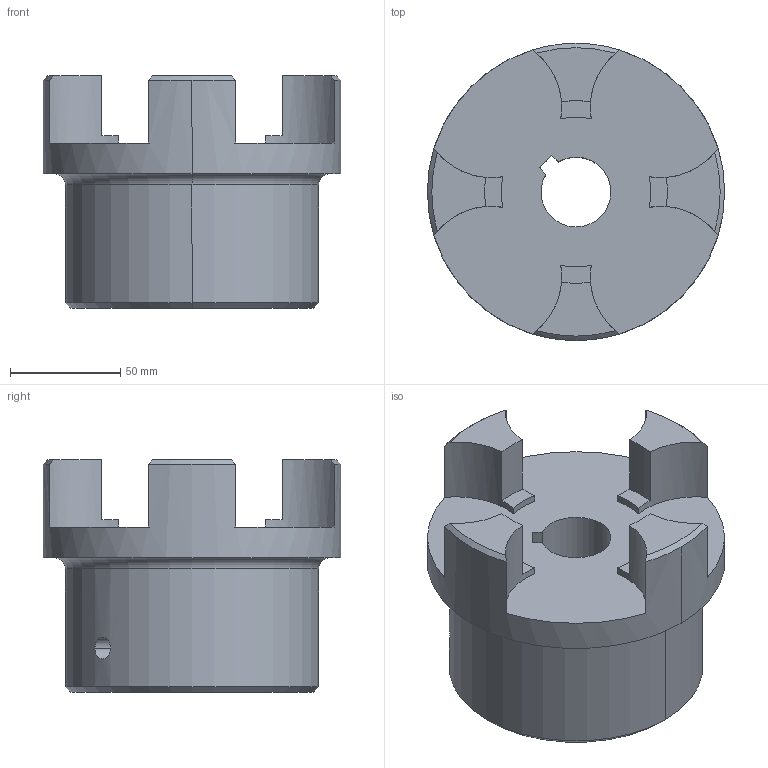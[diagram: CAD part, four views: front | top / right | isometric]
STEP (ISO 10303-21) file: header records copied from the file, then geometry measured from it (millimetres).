
FILE_DESCRIPTION((''),'2;1');
FILE_NAME('020653023150_INT','2021-09-14T14:07:42',('W.Rathmann'),(''),'CREO PARAMETRIC BY PTC INC, 2020044','CREO PARAMETRIC BY PTC INC, 2020044','');
FILE_SCHEMA(('CONFIG_CONTROL_DESIGN'));
Length unit declared in the file: millimetre
Products named in the file (1): 020653023150_INT
Bounding box: 135 x 135 x 105.5 mm (x, y, z)
Volume: 842694.2 mm3; surface area: 76113.2 mm2
Topology: 1 solids, 1 shells, 48 faces, 142 edges, 104 vertices
Faces by surface type: cylinder 23, plane 17, cone 6, torus 2
Entity records: 1739 total; most frequent: CARTESIAN_POINT 375, DIRECTION 296, ORIENTED_EDGE 268, EDGE_CURVE 134, AXIS2_PLACEMENT_3D 119, VERTEX_POINT 88, CIRCLE 70, VECTOR 58
